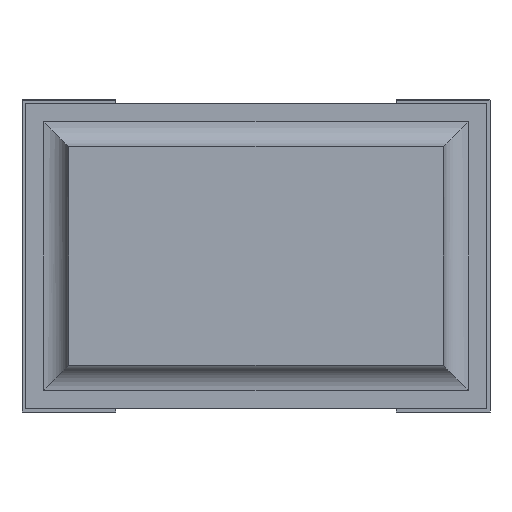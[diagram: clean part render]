
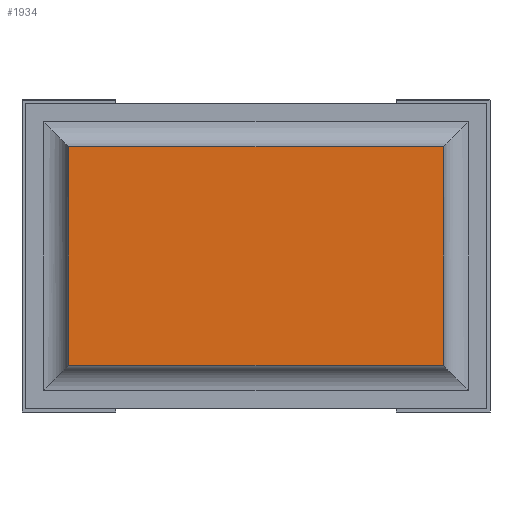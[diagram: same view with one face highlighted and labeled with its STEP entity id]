
A CAD part, front view. The second image highlights one B-rep face of the part: STEP entity #1934.
In plain terms, the highlighted planar face has unit normal (0, -1, 0).
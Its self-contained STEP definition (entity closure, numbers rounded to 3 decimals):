
#35=PLANE('',#2082);
#132=FACE_OUTER_BOUND('',#252,.T.);
#252=EDGE_LOOP('',(#1367,#1368,#1369,#1370));
#379=LINE('',#2778,#631);
#382=LINE('',#2784,#634);
#383=LINE('',#2787,#635);
#384=LINE('',#2788,#636);
#631=VECTOR('',#2235,10.);
#634=VECTOR('',#2240,10.);
#635=VECTOR('',#2243,10.);
#636=VECTOR('',#2244,10.);
#907=VERTEX_POINT('',#2774);
#908=VERTEX_POINT('',#2776);
#910=VERTEX_POINT('',#2782);
#911=VERTEX_POINT('',#2786);
#1085=EDGE_CURVE('',#907,#908,#379,.T.);
#1088=EDGE_CURVE('',#910,#908,#382,.T.);
#1089=EDGE_CURVE('',#911,#910,#383,.T.);
#1090=EDGE_CURVE('',#907,#911,#384,.T.);
#1367=ORIENTED_EDGE('',*,*,#1088,.F.);
#1368=ORIENTED_EDGE('',*,*,#1089,.F.);
#1369=ORIENTED_EDGE('',*,*,#1090,.F.);
#1370=ORIENTED_EDGE('',*,*,#1085,.T.);
#1934=ADVANCED_FACE('',(#132),#35,.T.);
#2082=AXIS2_PLACEMENT_3D('',#2785,#2241,#2242);
#2235=DIRECTION('',(0.,0.,-1.));
#2240=DIRECTION('',(-1.,0.,0.));
#2241=DIRECTION('center_axis',(0.,-1.,0.));
#2242=DIRECTION('ref_axis',(0.,0.,-1.));
#2243=DIRECTION('',(0.,0.,-1.));
#2244=DIRECTION('',(1.,0.,0.));
#2774=CARTESIAN_POINT('',(0.075,0.,0.425));
#2776=CARTESIAN_POINT('',(0.075,0.,0.075));
#2778=CARTESIAN_POINT('',(0.075,0.,0.425));
#2782=CARTESIAN_POINT('',(0.675,0.,0.075));
#2784=CARTESIAN_POINT('',(0.675,0.,0.075));
#2785=CARTESIAN_POINT('Origin',(0.676,0.,0.25));
#2786=CARTESIAN_POINT('',(0.675,0.,0.425));
#2787=CARTESIAN_POINT('',(0.675,0.,0.425));
#2788=CARTESIAN_POINT('',(0.075,0.,0.425));
